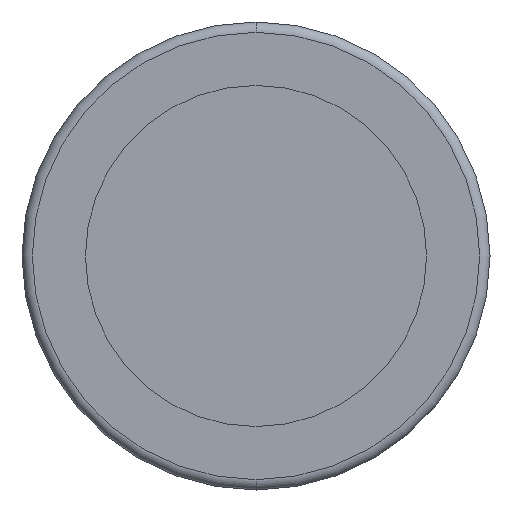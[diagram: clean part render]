
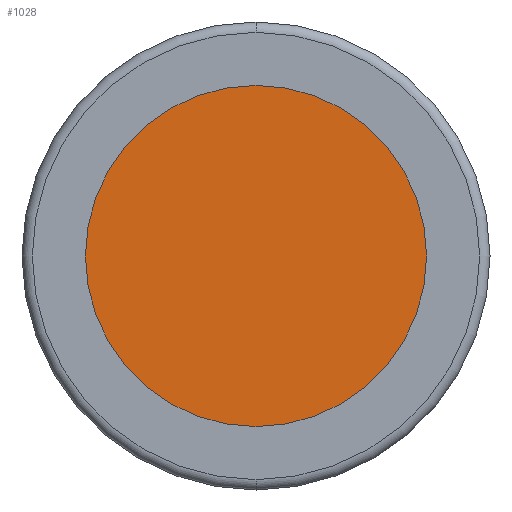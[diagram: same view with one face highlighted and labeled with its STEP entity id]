
A CAD part, front view. The second image highlights one B-rep face of the part: STEP entity #1028.
In plain terms, the highlighted planar face has unit normal (0, -1, 0).
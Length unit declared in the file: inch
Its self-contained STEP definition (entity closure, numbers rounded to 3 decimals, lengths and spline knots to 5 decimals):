
#29 = CARTESIAN_POINT ( 'NONE',  ( 0., -0.57, 0. ) ) ;
#62 = CIRCLE ( 'NONE', #1006, 0.33 ) ;
#175 = DIRECTION ( 'NONE',  ( 0., -1., 0. ) ) ;
#208 = EDGE_CURVE ( 'NONE', #990, #821, #62, .T. ) ;
#271 = CARTESIAN_POINT ( 'NONE',  ( 0., -0.57, 0. ) ) ;
#321 = EDGE_CURVE ( 'NONE', #821, #990, #879, .T. ) ;
#333 = FACE_OUTER_BOUND ( 'NONE', #718, .T. ) ;
#371 = DIRECTION ( 'NONE',  ( 0., 0., -1. ) ) ;
#392 = DIRECTION ( 'NONE',  ( 0., 0., -1. ) ) ;
#417 = ORIENTED_EDGE ( 'NONE', *, *, #321, .T. ) ;
#480 = CARTESIAN_POINT ( 'NONE',  ( 0., -0.57, 0. ) ) ;
#592 = AXIS2_PLACEMENT_3D ( 'NONE', #29, #701, #786 ) ;
#701 = DIRECTION ( 'NONE',  ( 0., -1., 0. ) ) ;
#718 = EDGE_LOOP ( 'NONE', ( #908, #417 ) ) ;
#739 = PLANE ( 'NONE',  #1131 ) ;
#786 = DIRECTION ( 'NONE',  ( 0., 0., -1. ) ) ;
#821 = VERTEX_POINT ( 'NONE', #1096 ) ;
#879 = CIRCLE ( 'NONE', #592, 0.33 ) ;
#908 = ORIENTED_EDGE ( 'NONE', *, *, #208, .T. ) ;
#912 = CARTESIAN_POINT ( 'NONE',  ( 0., -0.57, 0.33 ) ) ;
#990 = VERTEX_POINT ( 'NONE', #912 ) ;
#1006 = AXIS2_PLACEMENT_3D ( 'NONE', #480, #175, #392 ) ;
#1013 = DIRECTION ( 'NONE',  ( 0., -1., 0. ) ) ;
#1028 = ADVANCED_FACE ( 'NONE', ( #333 ), #739, .T. ) ;
#1096 = CARTESIAN_POINT ( 'NONE',  ( 0., -0.57, -0.33 ) ) ;
#1131 = AXIS2_PLACEMENT_3D ( 'NONE', #271, #1013, #371 ) ;
